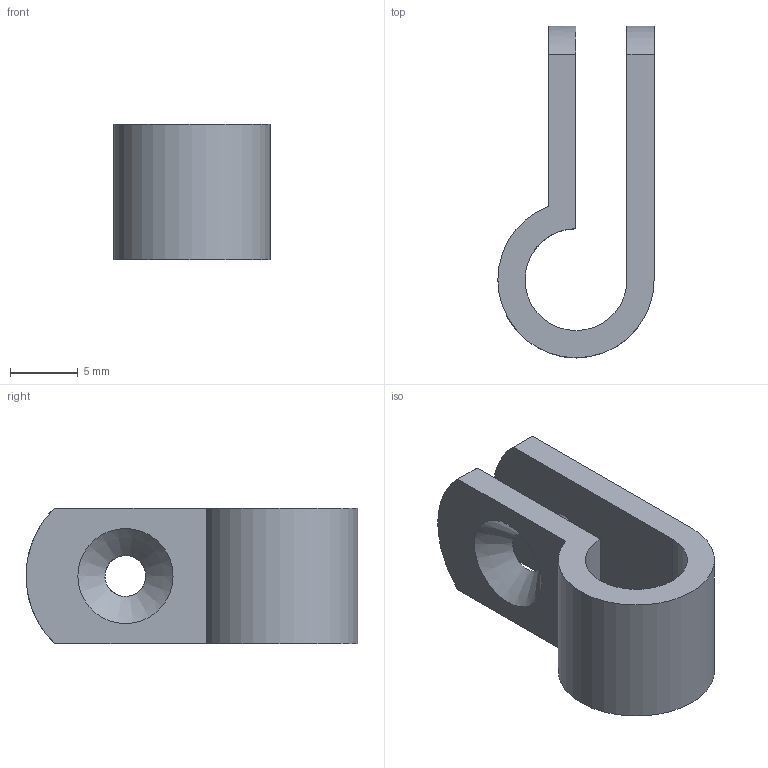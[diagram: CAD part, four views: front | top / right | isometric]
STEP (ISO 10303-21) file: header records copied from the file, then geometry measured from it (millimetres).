
FILE_DESCRIPTION(('STEP AP242'), '1');
FILE_NAME('膹鴄黟 2', '', ('UNSPECIFIED'), ('UNSPECIFIED'), 'C3D Converter', 'C3D Toolkit', '');
FILE_SCHEMA(('AP242_MANAGED_MODEL_BASED_3D_ENGINEERING_MIM_LF { 1 0 10303 442 1 1 4 }'));
Length unit declared in the file: millimetre
Bounding box: 11.5 x 24.42 x 10 mm (x, y, z)
Volume: 999.2 mm3; surface area: 1303.9 mm2
Topology: 1 solids, 1 shells, 12 faces, 30 edges, 20 vertices
Faces by surface type: plane 6, cylinder 5, cone 1
Full cylindrical faces by diameter (mm): 3 x1
Entity records: 523 total; most frequent: CARTESIAN_POINT 203, ORIENTED_EDGE 56, DIRECTION 54, EDGE_CURVE 28, VERTEX_POINT 20, AXIS2_PLACEMENT_3D 19, EDGE_LOOP 18, LINE 16
